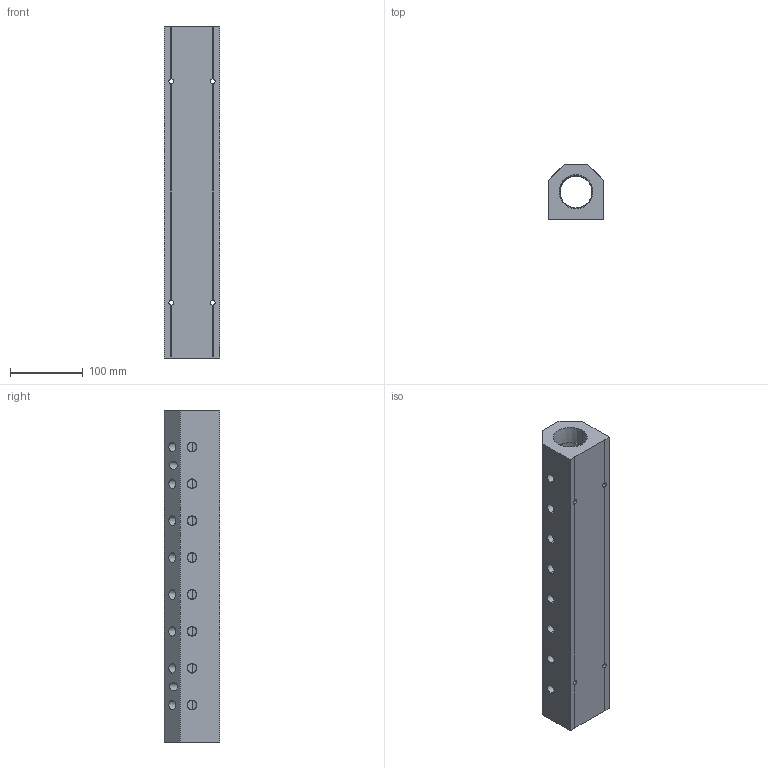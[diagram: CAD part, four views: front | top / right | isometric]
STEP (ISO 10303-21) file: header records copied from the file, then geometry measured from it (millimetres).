
FILE_DESCRIPTION (( 'STEP AP214' ), '1' );
FILE_NAME ('ALM8ABC-N4N24-457B.step', '2022-02-07T07:46:27', ( '' ), ( '' ), 'SwSTEP 2.0', 'SolidWorks 2020', '' );
FILE_SCHEMA (( 'AUTOMOTIVE_DESIGN' ));
Length unit declared in the file: millimetre
Products named in the file (1): ALM8ABC-N4N24-457B
Bounding box: 76.2 x 76.2 x 457 mm (x, y, z)
Volume: 1653140.5 mm3; surface area: 213636.7 mm2
Topology: 1 solids, 1 shells, 368 faces, 987 edges, 650 vertices
Faces by surface type: plane 235, bspline 63, cone 52, cylinder 18
Entity records: 20903 total; most frequent: CARTESIAN_POINT 8565, ORIENTED_EDGE 1974, DIRECTION 1493, EDGE_CURVE 987, LINE 713, VECTOR 713, VERTEX_POINT 650, EDGE_LOOP 455
